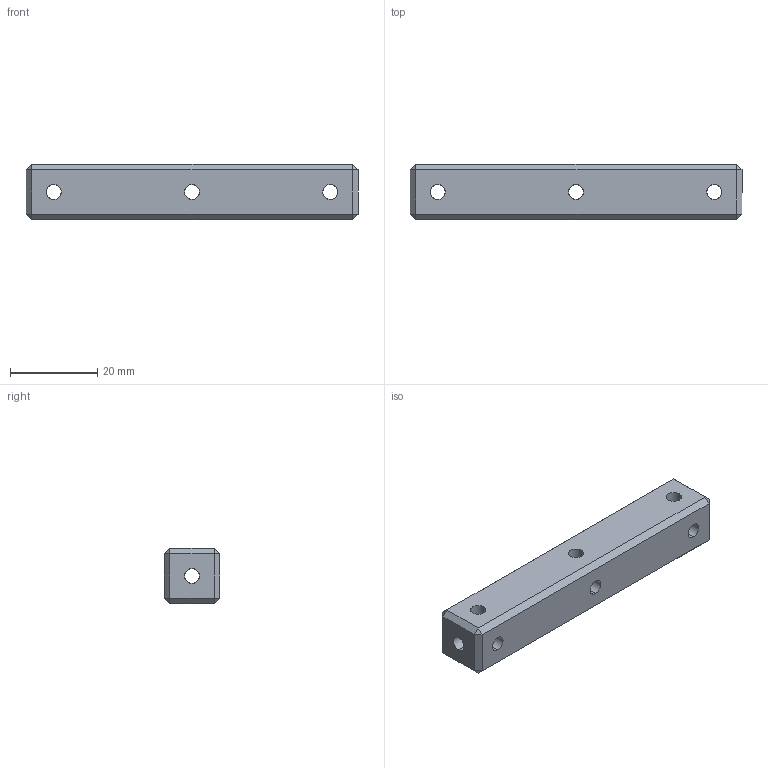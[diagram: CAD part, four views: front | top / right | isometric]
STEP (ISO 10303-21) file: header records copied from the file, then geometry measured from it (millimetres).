
FILE_DESCRIPTION (( 'STEP AP203' ), '1' );
FILE_NAME ('FDPCK-.5PULTRUDED-BLOCK1x3.step', '2019-09-11T18:23:11', ( 'ydmin' ), ( '' ), 'SwSTEP 2.0', 'SolidWorks 2017', '' );
FILE_SCHEMA (( 'CONFIG_CONTROL_DESIGN' ));
Length unit declared in the file: inch
Products named in the file (1): FDPCK-.5PULTRUDED-BLOCK1x3
Bounding box: 76.2 x 12.7 x 12.7 mm (x, y, z)
Volume: 10720.1 mm3; surface area: 5105.3 mm2
Topology: 1 solids, 1 shells, 58 faces, 168 edges, 100 vertices
Faces by surface type: cylinder 32, plane 26
Entity records: 1983 total; most frequent: CARTESIAN_POINT 507, ORIENTED_EDGE 336, DIRECTION 254, EDGE_CURVE 168, VERTEX_POINT 100, AXIS2_PLACEMENT_3D 87, VECTOR 80, LINE 80
